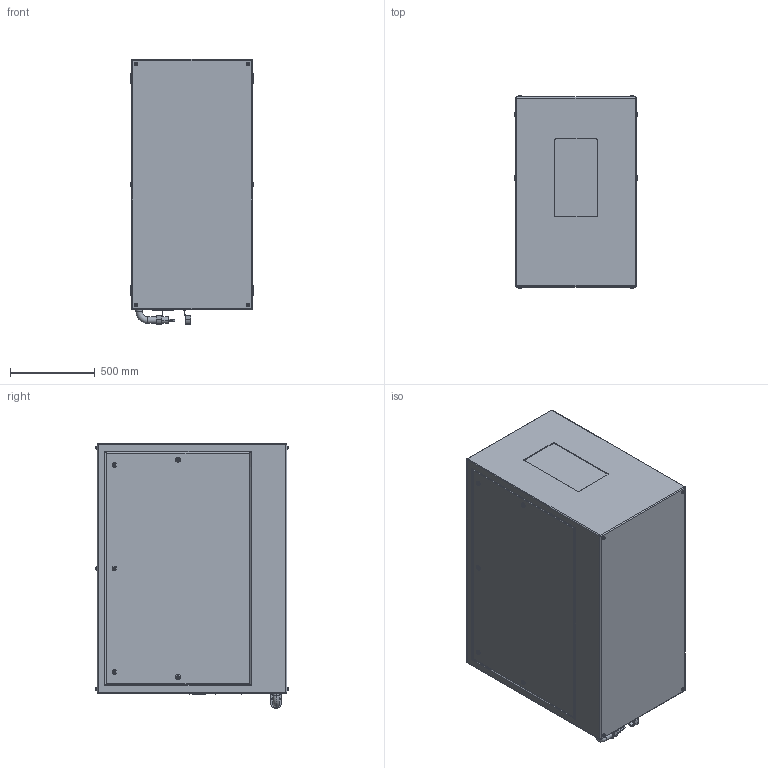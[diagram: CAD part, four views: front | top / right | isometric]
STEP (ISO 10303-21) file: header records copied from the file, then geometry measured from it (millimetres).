
FILE_DESCRIPTION (( 'STEP AP214' ), '1' );
FILE_NAME ('Oasis 59.514.P R02.STEP', '2022-08-27T16:13:25', ( '' ), ( '' ), 'SwSTEP 2.0', 'SolidWorks 2020', '' );
FILE_SCHEMA (( 'AUTOMOTIVE_DESIGN' ));
Length unit declared in the file: inch
Products named in the file (1): Oasis 59.514.P R02
Bounding box: 723.9 x 1134.87 x 1562.1 mm (x, y, z)
Volume: 1169826383.4 mm3; surface area: 7547428.3 mm2
Topology: 2 solids, 8 shells, 555 faces, 1265 edges, 802 vertices
Faces by surface type: plane 307, cylinder 186, torus 54, bspline 8
Entity records: 21388 total; most frequent: CARTESIAN_POINT 3135, DIRECTION 2763, ORIENTED_EDGE 2514, EDGE_CURVE 1257, AXIS2_PLACEMENT_3D 990, VERTEX_POINT 802, VECTOR 783, LINE 783
